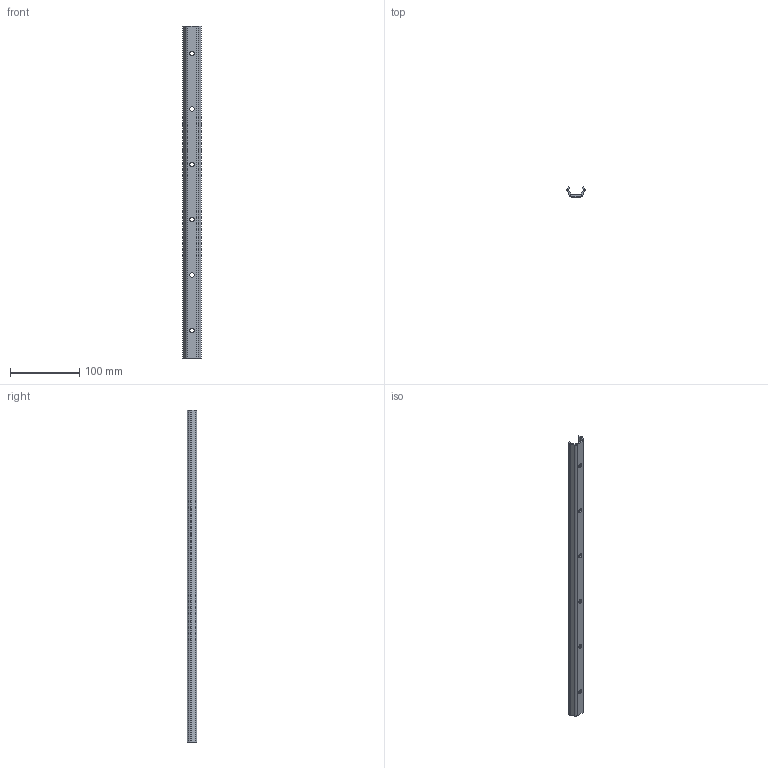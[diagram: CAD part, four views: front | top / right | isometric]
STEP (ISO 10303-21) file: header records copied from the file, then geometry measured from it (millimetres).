
FILE_DESCRIPTION(('STEP AP214'),'1');
FILE_NAME('rail_tex26-480.stp','2019-03-08T08:28:46',('TraceParts'),('TraceParts S.A.'),'Spatial InterOp 3D',' ',' ');
FILE_SCHEMA(('automotive_design'));
Length unit declared in the file: millimetre
Products named in the file (1): rail_tex26-480
Bounding box: 26.06 x 14 x 480 mm (x, y, z)
Volume: 49680 mm3; surface area: 42499.5 mm2
Topology: 1 solids, 1 shells, 152 faces, 396 edges, 264 vertices
Faces by surface type: plane 106, cylinder 24, bspline 22
Entity records: 9253 total; most frequent: CARTESIAN_POINT 4347, ORIENTED_EDGE 792, DIRECTION 662, EDGE_CURVE 396, LINE 304, VECTOR 304, VERTEX_POINT 264, EDGE_LOOP 182
